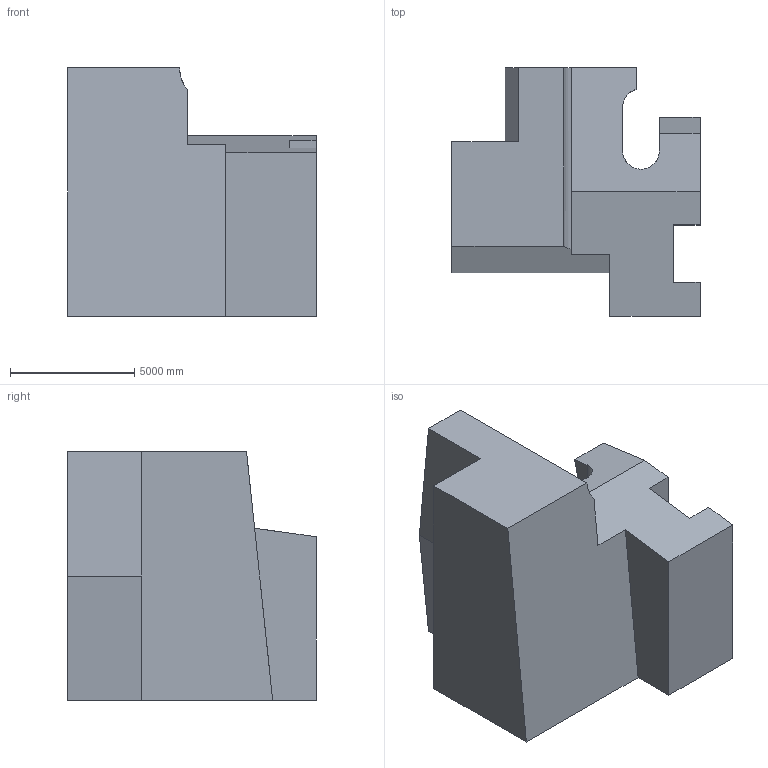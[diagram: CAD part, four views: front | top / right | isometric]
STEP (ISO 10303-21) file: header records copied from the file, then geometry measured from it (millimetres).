
FILE_DESCRIPTION (( 'STEP AP203' ), '1' );
FILE_NAME ('689.STEP', '2022-07-29T12:32:36', ( 'user' ), ( '' ), 'SwSTEP 2.0', 'SolidWorks 2021', '' );
FILE_SCHEMA (( 'CONFIG_CONTROL_DESIGN' ));
Length unit declared in the file: centimetre
Products named in the file (1): 689
Bounding box: 10000 x 10000 x 10000 mm (x, y, z)
Volume: 552968358909.9 mm3; surface area: 517350803.3 mm2
Topology: 1 solids, 1 shells, 26 faces, 72 edges, 48 vertices
Faces by surface type: plane 23, cylinder 3
Entity records: 896 total; most frequent: CARTESIAN_POINT 156, ORIENTED_EDGE 144, DIRECTION 126, EDGE_CURVE 72, VECTOR 66, LINE 66, VERTEX_POINT 48, AXIS2_PLACEMENT_3D 30
